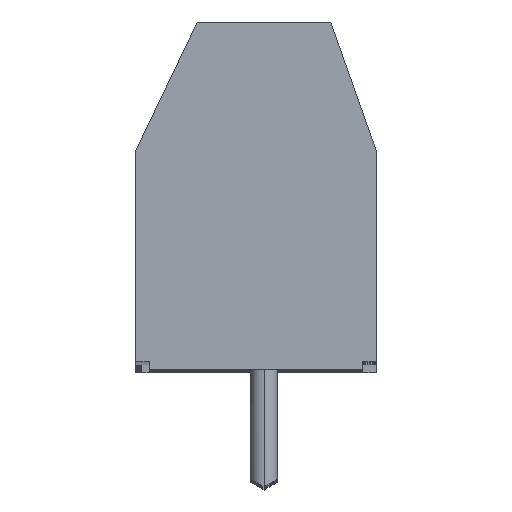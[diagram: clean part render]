
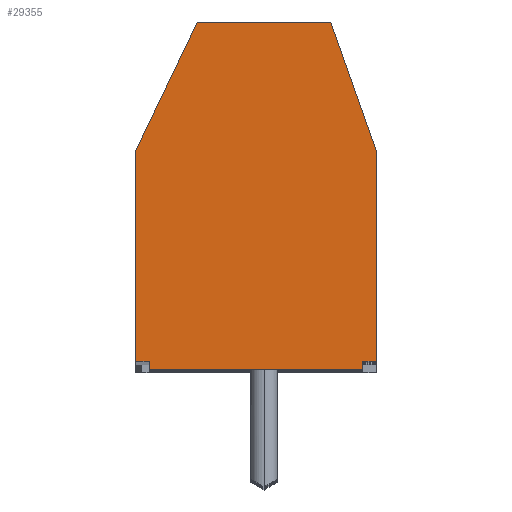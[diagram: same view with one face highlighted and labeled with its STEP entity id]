
A CAD part, top view. The second image highlights one B-rep face of the part: STEP entity #29355.
In plain terms, the highlighted planar face has unit normal (0, 0, 1).
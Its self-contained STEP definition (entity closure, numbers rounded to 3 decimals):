
#5857 = DIRECTION ( 'NONE',  ( 1., 0., 0. ) ) ;
#5858 = VECTOR ( 'NONE', #5857, 1000. ) ;
#5859 = CARTESIAN_POINT ( 'NONE',  ( 4.2, 0., 0. ) ) ;
#5860 = LINE ( 'NONE', #5859, #5858 ) ;
#11262 = CARTESIAN_POINT ( 'NONE',  ( -4.3, -0.3, 0. ) ) ;
#11266 = CARTESIAN_POINT ( 'NONE',  ( -4.3, 0., 0. ) ) ;
#11344 = DIRECTION ( 'NONE',  ( 0., -1., 0. ) ) ;
#11345 = VECTOR ( 'NONE', #11344, 1000. ) ;
#11346 = CARTESIAN_POINT ( 'NONE',  ( -4.3, -0.15, 0. ) ) ;
#11347 = LINE ( 'NONE', #11346, #11345 ) ;
#11418 = DIRECTION ( 'NONE',  ( 0., 1., 0. ) ) ;
#11419 = VECTOR ( 'NONE', #11418, 1000. ) ;
#11420 = CARTESIAN_POINT ( 'NONE',  ( 3.7, -0.15, 0. ) ) ;
#11421 = LINE ( 'NONE', #11420, #11419 ) ;
#11445 = CARTESIAN_POINT ( 'NONE',  ( 3.7, -0.3, 0. ) ) ;
#11775 = VERTEX_POINT ( 'NONE', #11266 ) ;
#11792 = VERTEX_POINT ( 'NONE', #11262 ) ;
#12141 = EDGE_CURVE ( 'NONE', #11775, #11792, #11347, .T. ) ;
#12614 = EDGE_CURVE ( 'NONE', #12834, #25366, #11421, .T. ) ;
#12834 = VERTEX_POINT ( 'NONE', #11445 ) ;
#12916 = CARTESIAN_POINT ( 'NONE',  ( -4.8, 0., 0. ) ) ;
#13139 = CARTESIAN_POINT ( 'NONE',  ( 4.2, 0., 0. ) ) ;
#13675 = CARTESIAN_POINT ( 'NONE',  ( 3.7, 0., 0. ) ) ;
#13727 = DIRECTION ( 'NONE',  ( 1., 0., 0. ) ) ;
#13728 = VECTOR ( 'NONE', #13727, 1000. ) ;
#13729 = CARTESIAN_POINT ( 'NONE',  ( 3.952, 0., 0. ) ) ;
#13730 = LINE ( 'NONE', #13729, #13728 ) ;
#18062 = CARTESIAN_POINT ( 'NONE',  ( -4.8, 7.9, 0. ) ) ;
#18063 = DIRECTION ( 'NONE',  ( 0., 1., 0. ) ) ;
#18064 = VECTOR ( 'NONE', #18063, 1000. ) ;
#18065 = CARTESIAN_POINT ( 'NONE',  ( -4.8, 6.2, 0. ) ) ;
#18066 = LINE ( 'NONE', #18065, #18064 ) ;
#18077 = CARTESIAN_POINT ( 'NONE',  ( 4.2, 7.9, 0. ) ) ;
#18078 = DIRECTION ( 'NONE',  ( 0., -1., 0. ) ) ;
#18079 = VECTOR ( 'NONE', #18078, 1000. ) ;
#18080 = CARTESIAN_POINT ( 'NONE',  ( 4.2, 7.9, 0. ) ) ;
#18081 = LINE ( 'NONE', #18080, #18079 ) ;
#18176 = DIRECTION ( 'NONE',  ( -1., 0., 0. ) ) ;
#18177 = VECTOR ( 'NONE', #18176, 1000. ) ;
#18178 = CARTESIAN_POINT ( 'NONE',  ( -0.3, -0.3, 0. ) ) ;
#18179 = LINE ( 'NONE', #18178, #18177 ) ;
#20085 = LINE ( 'NONE', #20144, #20143 ) ;
#20116 = DIRECTION ( 'NONE',  ( -0.432, -0.902, 0. ) ) ;
#20117 = VECTOR ( 'NONE', #20116, 1000. ) ;
#20118 = CARTESIAN_POINT ( 'NONE',  ( -3.65, 10.3, 0. ) ) ;
#20119 = LINE ( 'NONE', #20118, #20117 ) ;
#20120 = DIRECTION ( 'NONE',  ( -1., 0., 0. ) ) ;
#20121 = DIRECTION ( 'NONE',  ( 0., 0., -1. ) ) ;
#20122 = CARTESIAN_POINT ( 'NONE',  ( 4.2, -0.3, 0. ) ) ;
#20123 = AXIS2_PLACEMENT_3D ( 'NONE', #20122, #20121, #20120 ) ;
#20124 = PLANE ( 'NONE',  #20123 ) ;
#20125 = FACE_OUTER_BOUND ( 'NONE', #29356, .T. ) ;
#20130 = CARTESIAN_POINT ( 'NONE',  ( 2.5, 12.7, 0. ) ) ;
#20131 = DIRECTION ( 'NONE',  ( 0.334, -0.943, 0. ) ) ;
#20132 = VECTOR ( 'NONE', #20131, 1000. ) ;
#20133 = CARTESIAN_POINT ( 'NONE',  ( 2.5, 12.7, 0. ) ) ;
#20134 = LINE ( 'NONE', #20133, #20132 ) ;
#20142 = DIRECTION ( 'NONE',  ( -1., 0., 0. ) ) ;
#20143 = VECTOR ( 'NONE', #20142, 1000. ) ;
#20144 = CARTESIAN_POINT ( 'NONE',  ( 4.2, 12.7, 0. ) ) ;
#20182 = CARTESIAN_POINT ( 'NONE',  ( -2.5, 12.7, 0. ) ) ;
#24893 = VERTEX_POINT ( 'NONE', #12916 ) ;
#25036 = VERTEX_POINT ( 'NONE', #13139 ) ;
#25366 = VERTEX_POINT ( 'NONE', #13675 ) ;
#25381 = EDGE_CURVE ( 'NONE', #25366, #25036, #13730, .T. ) ;
#27820 = EDGE_CURVE ( 'NONE', #27821, #25036, #18081, .T. ) ;
#27821 = VERTEX_POINT ( 'NONE', #18077 ) ;
#27886 = EDGE_CURVE ( 'NONE', #24893, #27887, #18066, .T. ) ;
#27887 = VERTEX_POINT ( 'NONE', #18062 ) ;
#27970 = EDGE_CURVE ( 'NONE', #12834, #11792, #18179, .T. ) ;
#29340 = ORIENTED_EDGE ( 'NONE', *, *, #25381, .T. ) ;
#29341 = ORIENTED_EDGE ( 'NONE', *, *, #27820, .F. ) ;
#29342 = ORIENTED_EDGE ( 'NONE', *, *, #29349, .F. ) ;
#29343 = ORIENTED_EDGE ( 'NONE', *, *, #29344, .T. ) ;
#29344 = EDGE_CURVE ( 'NONE', #29350, #29359, #20085, .T. ) ;
#29349 = EDGE_CURVE ( 'NONE', #29350, #27821, #20134, .T. ) ;
#29350 = VERTEX_POINT ( 'NONE', #20130 ) ;
#29355 = ADVANCED_FACE ( 'NONE', ( #20125 ), #20124, .F. ) ;
#29356 = EDGE_LOOP ( 'NONE', ( #29357, #29360, #29361, #29419, #29420, #29421, #29340, #29341, #29342, #29343 ) ) ;
#29357 = ORIENTED_EDGE ( 'NONE', *, *, #29358, .T. ) ;
#29358 = EDGE_CURVE ( 'NONE', #29359, #27887, #20119, .T. ) ;
#29359 = VERTEX_POINT ( 'NONE', #20182 ) ;
#29360 = ORIENTED_EDGE ( 'NONE', *, *, #27886, .F. ) ;
#29361 = ORIENTED_EDGE ( 'NONE', *, *, #36536, .T. ) ;
#29419 = ORIENTED_EDGE ( 'NONE', *, *, #12141, .T. ) ;
#29420 = ORIENTED_EDGE ( 'NONE', *, *, #27970, .F. ) ;
#29421 = ORIENTED_EDGE ( 'NONE', *, *, #12614, .T. ) ;
#36536 = EDGE_CURVE ( 'NONE', #24893, #11775, #5860, .T. ) ;
